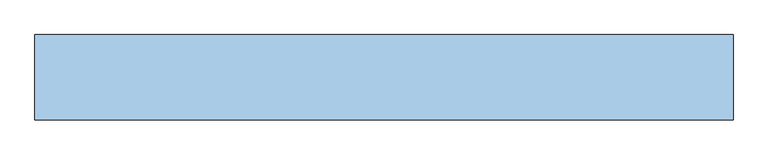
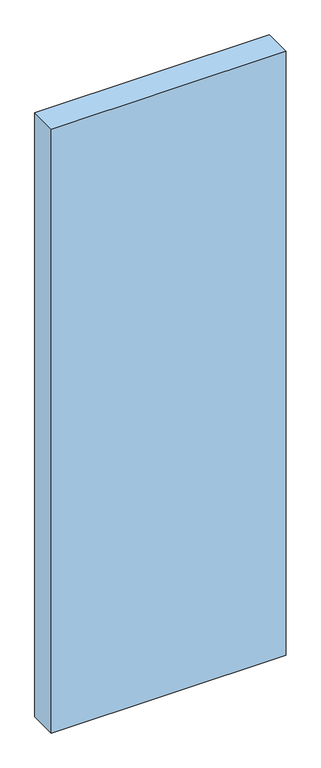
"""IFC4 building model written with IfcOpenShell, lengths in millimetres: window geometry, Dr_Проем-Четверти_об модель : ОК."""

from ifc_helpers import new_model, si_unit, frame, origin, place, context, project, spatial, polyline, outline, extrude, source, transform, mapped, element, save


def window_f55cbcea(model_context):
    return source(origin(), model_context, "Body", "SweptSolid", [
        extrude(outline(polyline([(955.0, -100.0), (-685.0, -100.0), (-685.0, 100.0), (955.0, 100.0), (955.0, -100.0)])), frame((0.0, 0.0, -70.0), z_axis=(0.0, 0.0, 1.0), x_axis=(1.0, 0.0, 0.0)), (0.0, 0.0, 1.0), 4460.0),
    ])


if __name__ == "__main__":
    model = new_model("IFC4")
    model_context = context("Model", 3, world=origin())
    ifc_project = project(units=[si_unit("LENGTHUNIT", "METRE", prefix="MILLI")], contexts=[model_context])
    site = spatial("IfcSite", under=ifc_project)
    building = spatial("IfcBuilding", under=site)
    placement = place(None, origin())
    window_shape = window_f55cbcea(model_context)
    element("IfcWindow", 1, ObjectType="Dr_Проем-Четверти_об модель : ОК", at=placement, inside=building, context=model_context, shape_type="MappedRepresentation", body=[
        mapped(window_shape, transform((0.0, 0.0, 0.0), x_axis=(1.0, 0.0, 0.0), y_axis=(0.0, 1.0, 0.0), z_axis=(0.0, 0.0, 1.0))),
    ])
    save(model, "model.ifc")
